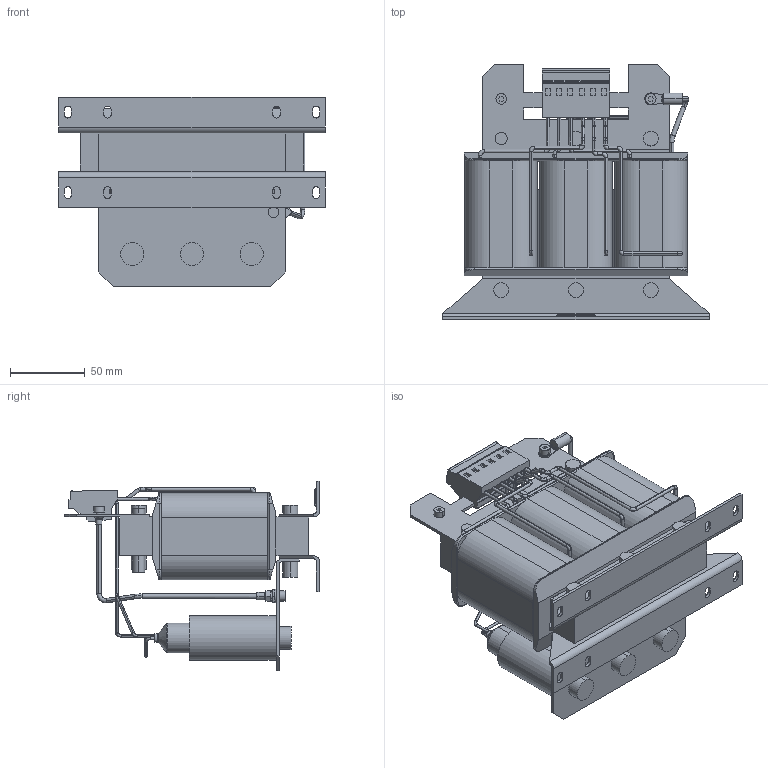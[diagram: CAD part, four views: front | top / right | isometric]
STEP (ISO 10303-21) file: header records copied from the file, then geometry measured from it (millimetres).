
FILE_DESCRIPTION (( 'STEP AP214' ), '1' );
FILE_NAME ('00Z1GX4-0012.STEP', '2023-03-07T12:35:34', ( '' ), ( '' ), 'SwSTEP 2.0', 'SolidWorks 2022', '' );
FILE_SCHEMA (( 'AUTOMOTIVE_DESIGN' ));
Length unit declared in the file: millimetre
Products named in the file (1): 00Z1GX4-0012
Bounding box: 178 x 170.4 x 126.9 mm (x, y, z)
Volume: 1017976.3 mm3; surface area: 162188.7 mm2
Topology: 1 solids, 1 shells, 687 faces, 1781 edges, 1136 vertices
Faces by surface type: plane 280, cylinder 257, torus 108, bspline 36, cone 6
Entity records: 23636 total; most frequent: CARTESIAN_POINT 6420, DIRECTION 3595, ORIENTED_EDGE 3554, EDGE_CURVE 1777, AXIS2_PLACEMENT_3D 1388, VERTEX_POINT 1136, VECTOR 819, LINE 819
